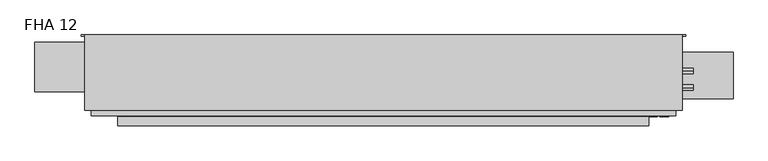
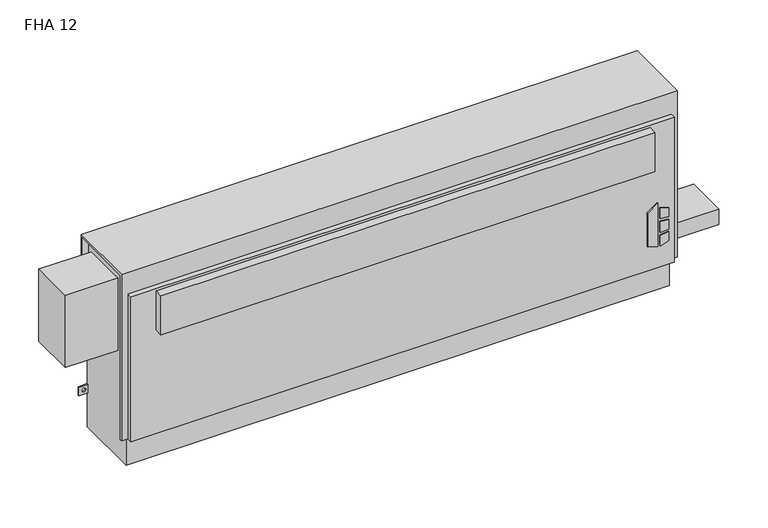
"""IFC4 building model written with IfcOpenShell, lengths in millimetres: proxy geometry, Vertical_Fan_Coil_Unit_-_FHA_-_IEC_-_2-Pipe_FS-FR_RH_2022 : FHA 12."""

from ifc_helpers import new_model, si_unit, point, frame, frame_2d, origin, place, context, project, spatial, polyline, circle_curve, trimmed, segment, composite_curve, outline, extrude, source, transform, mapped, element, save
from ifc_brep_helpers import plane_surface, revolved_surface, advanced_brep


def fha_12_aa732288(model_context):
    return source(origin(), model_context, "Body", "SolidModel", [
        extrude(outline(polyline([(172.5771459, 906.5368862), (162.6290756, 938.7102728), (304.8, 938.7102728), (281.7779939, 906.5368862), (172.5771459, 906.5368862)])), frame((0.0, 9.525, 0.0), z_axis=(0.0, 1.0, 0.0), x_axis=(0.0, 0.0, 1.0)), (0.0, 0.0, 1.0), 3.175),
        extrude(outline(polyline([(251.5764313, 945.4686058), (248.3740387, 971.55), (277.6028798, 971.55), (285.6672948, 945.4686058), (251.5764313, 945.4686058)])), frame((0.0, 9.525, 0.0), z_axis=(0.0, 1.0, 0.0), x_axis=(0.0, 0.0, 1.0)), (0.0, 0.0, 1.0), 3.175),
        extrude(outline(polyline([(199.7129044, 971.55), (196.0474034, 945.4686058), (162.6290756, 945.4686058), (171.2633128, 971.55), (199.7129044, 971.55)])), frame((0.0, 9.525, 0.0), z_axis=(0.0, 1.0, 0.0), x_axis=(0.0, 0.0, 1.0)), (0.0, 0.0, 1.0), 3.175),
        extrude(outline(polyline([(239.0280658, 971.55), (241.3098921, 945.4686058), (205.3723436, 945.4686058), (208.1136086, 971.55), (239.0280658, 971.55)])), frame((0.0, 9.525, 0.0), z_axis=(0.0, 1.0, 0.0), x_axis=(0.0, 0.0, 1.0)), (0.0, 0.0, 1.0), 3.175),
        extrude(outline(composite_curve([segment(trimmed(circle_curve(frame_2d((1054.1, 128.5875)), 9.525), [point((1044.575, 128.5875))], [point((1063.625, 128.5875))], False, "CARTESIAN"), True, "CONTINUOUS"), segment(trimmed(circle_curve(frame_2d((1054.1, 128.5875)), 9.525), [point((1063.625, 128.5875))], [point((1044.575, 128.5875))], False, "CARTESIAN"), True, "CONTINUOUS")], self_intersect=False)), frame((0.0, 0.0, 101.6), z_axis=(0.0, 0.0, 1.0), x_axis=(1.0, 0.0, 0.0)), (0.0, 0.0, 1.0), 25.4),
        extrude(outline(polyline([(1155.7, 195.2625), (1155.7, 61.9125), (990.6, 61.9125), (990.6, 195.2625), (1155.7, 195.2625)])), frame((0.0, 0.0, 127.0), z_axis=(0.0, 0.0, 1.0), x_axis=(1.0, 0.0, 0.0)), (0.0, 0.0, 1.0), 50.8),
        extrude(outline(polyline([(914.4, -15.875), (-609.6, -15.875), (-609.6, 9.525), (914.4, 9.525), (914.4, -15.875)])), frame((0.0, 0.0, 431.8), z_axis=(0.0, 0.0, 1.0), x_axis=(1.0, 0.0, 0.0)), (0.0, 0.0, 1.0), 127.0),
        extrude(outline(composite_curve([segment(trimmed(circle_curve(frame_2d((93.1926, 488.0102)), 7.9375), [point((93.1926, 480.0727))], [point((93.1926, 495.9477))], False, "CARTESIAN"), True, "CONTINUOUS"), segment(trimmed(circle_curve(frame_2d((93.1926, 488.0102)), 7.9375), [point((93.1926, 495.9477))], [point((93.1926, 480.0727))], False, "CARTESIAN"), True, "CONTINUOUS")], self_intersect=False)), frame((990.6, 0.0, 0.0), z_axis=(1.0, 0.0, 0.0), x_axis=(0.0, 1.0, 0.0)), (0.0, 0.0, 1.0), 50.8),
        extrude(outline(composite_curve([segment(trimmed(circle_curve(frame_2d((141.3002, 461.3402)), 7.9375), [point((141.3002, 453.4027))], [point((141.3002, 469.2777))], False, "CARTESIAN"), True, "CONTINUOUS"), segment(trimmed(circle_curve(frame_2d((141.3002, 461.3402)), 7.9375), [point((141.3002, 469.2777))], [point((141.3002, 453.4027))], False, "CARTESIAN"), True, "CONTINUOUS")], self_intersect=False)), frame((990.6, 0.0, 0.0), z_axis=(1.0, 0.0, 0.0), x_axis=(0.0, 1.0, 0.0)), (0.0, 0.0, 1.0), 50.8),
        extrude(outline(polyline([(-685.8, 223.266), (-685.8, 81.534), (-847.725, 81.534), (-847.725, 223.266), (-685.8, 223.266)])), frame((0.0, 0.0, 349.25), z_axis=(0.0, 0.0, 1.0), x_axis=(1.0, 0.0, 0.0)), (0.0, 0.0, 1.0), 234.95),
        advanced_brep(
        [(1009.65, 244.475, 635.0), (-704.85, 244.475, 635.0), (-704.85, 28.575, 635.0), (1009.65, 28.575, 635.0), (-685.8, 244.475, 0.0), (990.6, 244.475, 0.0), (990.6, 38.1, 0.0), (-685.8, 38.1, 0.0), (1009.65, 244.475, 558.8), (990.6, 244.475, 558.8), (990.6, 244.475, 414.3375), (1019.175, 244.475, 414.3375), (1019.175, 244.475, 385.7625), (990.6, 244.475, 385.7625), (990.6, 244.475, 287.3375), (1019.175, 244.475, 287.3375), (1019.175, 244.475, 258.7625), (990.6, 244.475, 258.7625), (990.6, 244.475, 141.2875), (1019.175, 244.475, 141.2875), (1019.175, 244.475, 112.7125), (990.6, 244.475, 112.7125), (-685.8, 244.475, 112.7125), (-714.375, 244.475, 112.7125), (-714.375, 244.475, 141.2875), (-685.8, 244.475, 141.2875), (-685.8, 244.475, 258.7625), (-714.375, 244.475, 258.7625), (-714.375, 244.475, 287.3375), (-685.8, 244.475, 287.3375), (-685.8, 244.475, 385.7625), (-714.375, 244.475, 385.7625), (-714.375, 244.475, 414.3375), (-685.8, 244.475, 414.3375), (-685.8, 244.475, 558.8), (-704.85, 244.475, 558.8), (1008.8626, 244.475, 127.0), (997.7374, 244.475, 127.0), (-692.9374, 244.475, 127.0), (-704.0626, 244.475, 127.0), (1008.8626, 244.475, 273.05), (997.7374, 244.475, 273.05), (-692.9374, 244.475, 273.05), (-704.0626, 244.475, 273.05), (1008.8626, 244.475, 400.05), (997.7374, 244.475, 400.05), (-692.9374, 244.475, 400.05), (-704.0626, 244.475, 400.05), (-704.85, 238.125, 558.8), (-704.85, 238.125, 628.65), (-704.85, 34.925, 628.65), (-704.85, 34.925, 92.075), (-704.85, 28.575, 92.075), (990.6, 12.7, 565.15), (-685.8, 12.7, 565.15), (-685.8, 12.7, 92.075), (990.6, 12.7, 92.075), (1009.65, 28.575, 92.075), (1009.65, 34.925, 92.075), (1009.65, 34.925, 628.65), (1009.65, 238.125, 628.65), (1009.65, 238.125, 558.8), (-685.8, 28.575, 92.075), (-685.8, 28.575, 565.15), (990.6, 28.575, 565.15), (990.6, 28.575, 92.075), (-685.8, 34.925, 92.075), (-685.8, 38.1, 92.075), (990.6, 38.1, 92.075), (990.6, 34.925, 92.075), (990.6, 241.3, 112.7125), (990.6, 241.3, 141.2875), (990.6, 241.3, 258.7625), (990.6, 241.3, 287.3375), (990.6, 241.3, 385.7625), (990.6, 241.3, 414.3375), (990.6, 238.125, 558.8), (990.6, 238.125, 628.65), (990.6, 34.925, 628.65), (-685.8, 34.925, 628.65), (-685.8, 238.125, 628.65), (-685.8, 238.125, 558.8), (-685.8, 241.3, 414.3375), (-685.8, 241.3, 385.7625), (-685.8, 241.3, 287.3375), (-685.8, 241.3, 258.7625), (-685.8, 241.3, 141.2875), (-685.8, 241.3, 112.7125), (1019.175, 241.3, 112.7125), (1019.175, 241.3, 141.2875), (997.7374, 241.3, 127.0), (1008.8626, 241.3, 127.0), (1019.175, 241.3, 258.7625), (1019.175, 241.3, 287.3375), (997.7374, 241.3, 273.05), (1008.8626, 241.3, 273.05), (1019.175, 241.3, 385.7625), (1019.175, 241.3, 414.3375), (997.7374, 241.3, 400.05), (1008.8626, 241.3, 400.05), (-714.375, 241.3, 141.2875), (-714.375, 241.3, 112.7125), (-704.0626, 241.3, 127.0), (-692.9374, 241.3, 127.0), (-714.375, 241.3, 287.3375), (-714.375, 241.3, 258.7625), (-704.0626, 241.3, 273.05), (-692.9374, 241.3, 273.05), (-714.375, 241.3, 414.3375), (-714.375, 241.3, 385.7625), (-704.0626, 241.3, 400.05), (-692.9374, 241.3, 400.05)],
        [
            (0, 1),
            (1, 2),
            (2, 3),
            (3, 0),
            (4, 5),
            (5, 6),
            (6, 7),
            (7, 4),
            (0, 8),
            (8, 9),
            (9, 10),
            (10, 11),
            (11, 12),
            (12, 13),
            (13, 14),
            (14, 15),
            (15, 16),
            (16, 17),
            (17, 18),
            (18, 19),
            (19, 20),
            (20, 21),
            (21, 5),
            (4, 22),
            (22, 23),
            (23, 24),
            (24, 25),
            (25, 26),
            (26, 27),
            (27, 28),
            (28, 29),
            (29, 30),
            (30, 31),
            (31, 32),
            (32, 33),
            (33, 34),
            (34, 35),
            (35, 1),
            (36, 37, circle_curve(frame((1003.3, 244.475, 127.0), z_axis=(0.0, -1.0, 0.0), x_axis=(-1.0, 0.0, 0.0)), 5.5626)),
            (37, 36, circle_curve(frame((1003.3, 244.475, 127.0), z_axis=(0.0, -1.0, 0.0), x_axis=(-1.0, 0.0, 0.0)), 5.5626)),
            (38, 39, circle_curve(frame((-698.5, 244.475, 127.0), z_axis=(0.0, -1.0, 0.0), x_axis=(-1.0, 0.0, 0.0)), 5.5626)),
            (39, 38, circle_curve(frame((-698.5, 244.475, 127.0), z_axis=(0.0, -1.0, 0.0), x_axis=(-1.0, 0.0, 0.0)), 5.5626)),
            (40, 41, circle_curve(frame((1003.3, 244.475, 273.05), z_axis=(0.0, -1.0, 0.0), x_axis=(-1.0, 0.0, 0.0)), 5.5626)),
            (41, 40, circle_curve(frame((1003.3, 244.475, 273.05), z_axis=(0.0, -1.0, 0.0), x_axis=(-1.0, 0.0, 0.0)), 5.5626)),
            (42, 43, circle_curve(frame((-698.5, 244.475, 273.05), z_axis=(0.0, -1.0, 0.0), x_axis=(-1.0, 0.0, 0.0)), 5.5626)),
            (43, 42, circle_curve(frame((-698.5, 244.475, 273.05), z_axis=(0.0, -1.0, 0.0), x_axis=(-1.0, 0.0, 0.0)), 5.5626)),
            (44, 45, circle_curve(frame((1003.3, 244.475, 400.05), z_axis=(0.0, -1.0, 0.0), x_axis=(-1.0, 0.0, 0.0)), 5.5626)),
            (45, 44, circle_curve(frame((1003.3, 244.475, 400.05), z_axis=(0.0, -1.0, 0.0), x_axis=(-1.0, 0.0, 0.0)), 5.5626)),
            (46, 47, circle_curve(frame((-698.5, 244.475, 400.05), z_axis=(0.0, -1.0, 0.0), x_axis=(-1.0, 0.0, 0.0)), 5.5626)),
            (47, 46, circle_curve(frame((-698.5, 244.475, 400.05), z_axis=(0.0, -1.0, 0.0), x_axis=(-1.0, 0.0, 0.0)), 5.5626)),
            (35, 48),
            (48, 49),
            (49, 50),
            (50, 51),
            (51, 52),
            (52, 2),
            (53, 54),
            (54, 55),
            (55, 56),
            (56, 53),
            (3, 57),
            (57, 58),
            (58, 59),
            (59, 60),
            (60, 61),
            (61, 8),
            (52, 62),
            (62, 63),
            (63, 64),
            (64, 65),
            (65, 57),
            (53, 64),
            (63, 54),
            (55, 62),
            (51, 66),
            (66, 67),
            (67, 68),
            (68, 69),
            (69, 58),
            (65, 56),
            (6, 68),
            (67, 7),
            (21, 70),
            (70, 71),
            (71, 18),
            (17, 72),
            (72, 73),
            (73, 14),
            (13, 74),
            (74, 75),
            (75, 10),
            (9, 76),
            (76, 77),
            (77, 78),
            (78, 69),
            (66, 79),
            (79, 80),
            (80, 81),
            (81, 34),
            (33, 82),
            (82, 83),
            (83, 30),
            (29, 84),
            (84, 85),
            (85, 26),
            (25, 86),
            (86, 87),
            (87, 22),
            (76, 61),
            (60, 77),
            (78, 59),
            (50, 79),
            (81, 48),
            (80, 49),
            (70, 88),
            (88, 89),
            (89, 71),
            (90, 91, circle_curve(frame((1003.3, 241.3, 127.0), z_axis=(0.0, 1.0, 0.0), x_axis=(-1.0, 0.0, 0.0)), 5.5626)),
            (91, 90, circle_curve(frame((1003.3, 241.3, 127.0), z_axis=(0.0, 1.0, 0.0), x_axis=(-1.0, 0.0, 0.0)), 5.5626)),
            (92, 93),
            (93, 73),
            (72, 92),
            (94, 95, circle_curve(frame((1003.3, 241.3, 273.05), z_axis=(0.0, 1.0, 0.0), x_axis=(-1.0, 0.0, 0.0)), 5.5626)),
            (95, 94, circle_curve(frame((1003.3, 241.3, 273.05), z_axis=(0.0, 1.0, 0.0), x_axis=(-1.0, 0.0, 0.0)), 5.5626)),
            (96, 97),
            (97, 75),
            (74, 96),
            (98, 99, circle_curve(frame((1003.3, 241.3, 400.05), z_axis=(0.0, 1.0, 0.0), x_axis=(-1.0, 0.0, 0.0)), 5.5626)),
            (99, 98, circle_curve(frame((1003.3, 241.3, 400.05), z_axis=(0.0, 1.0, 0.0), x_axis=(-1.0, 0.0, 0.0)), 5.5626)),
            (100, 101),
            (101, 87),
            (86, 100),
            (102, 103, circle_curve(frame((-698.5, 241.3, 127.0), z_axis=(0.0, 1.0, 0.0), x_axis=(-1.0, 0.0, 0.0)), 5.5626)),
            (103, 102, circle_curve(frame((-698.5, 241.3, 127.0), z_axis=(0.0, 1.0, 0.0), x_axis=(-1.0, 0.0, 0.0)), 5.5626)),
            (84, 104),
            (104, 105),
            (105, 85),
            (106, 107, circle_curve(frame((-698.5, 241.3, 273.05), z_axis=(0.0, 1.0, 0.0), x_axis=(-1.0, 0.0, 0.0)), 5.5626)),
            (107, 106, circle_curve(frame((-698.5, 241.3, 273.05), z_axis=(0.0, 1.0, 0.0), x_axis=(-1.0, 0.0, 0.0)), 5.5626)),
            (108, 109),
            (109, 83),
            (82, 108),
            (110, 111, circle_curve(frame((-698.5, 241.3, 400.05), z_axis=(0.0, 1.0, 0.0), x_axis=(-1.0, 0.0, 0.0)), 5.5626)),
            (111, 110, circle_curve(frame((-698.5, 241.3, 400.05), z_axis=(0.0, 1.0, 0.0), x_axis=(-1.0, 0.0, 0.0)), 5.5626)),
            (89, 19),
            (88, 20),
            (16, 92),
            (93, 15),
            (12, 96),
            (97, 11),
            (24, 100),
            (101, 23),
            (105, 27),
            (104, 28),
            (32, 108),
            (109, 31),
            (90, 37),
            (36, 91),
            (102, 39),
            (38, 103),
            (94, 41),
            (40, 95),
            (106, 43),
            (42, 107),
            (98, 45),
            (44, 99),
            (110, 47),
            (46, 111),
        ],
        [
            plane_surface(frame((-704.85, 244.475, 635.0), z_axis=(0.0, 0.0, 1.0), x_axis=(-1.0, 0.0, 0.0))),
            plane_surface(frame((-704.85, 244.475, 0.0), z_axis=(0.0, 0.0, -1.0), x_axis=(1.0, 0.0, 0.0))),
            plane_surface(frame((1009.65, 244.475, 635.0), z_axis=(0.0, 1.0, 0.0), x_axis=(0.0, 0.0, -1.0))),
            plane_surface(frame((-704.85, 244.475, 635.0), z_axis=(-1.0, 0.0, 0.0), x_axis=(0.0, 0.0, -1.0))),
            plane_surface(frame((-704.85, 12.7, 635.0), z_axis=(0.0, -1.0, 0.0), x_axis=(0.0, 0.0, -1.0))),
            plane_surface(frame((1009.65, 12.7, 635.0), z_axis=(1.0, 0.0, 0.0), x_axis=(0.0, 0.0, -1.0))),
            plane_surface(frame((-1263.65, 28.575, 635.0), z_axis=(0.0, -1.0, 0.0), x_axis=(1.0, 0.0, 0.0))),
            plane_surface(frame((-1263.65, 28.575, 565.15), z_axis=(0.0, 0.0, 1.0), x_axis=(1.0, 0.0, 0.0))),
            plane_surface(frame((-704.85, 12.7, 92.075), z_axis=(0.0, 0.0, -1.0), x_axis=(1.0, 0.0, 0.0))),
            plane_surface(frame((-704.85, 38.1, 92.075), z_axis=(0.0, -1.0, 0.0), x_axis=(1.0, 0.0, 0.0))),
            plane_surface(frame((990.6, 28.575, 92.075), z_axis=(1.0, 0.0, 0.0), x_axis=(0.0, -1.0, 0.0))),
            plane_surface(frame((-685.8, 28.575, 565.15), z_axis=(-1.0, 0.0, 0.0), x_axis=(0.0, -1.0, 0.0))),
            plane_surface(frame((990.6, 244.475, 0.0), z_axis=(1.0, 0.0, 0.0), x_axis=(0.0, -1.0, 0.0))),
            plane_surface(frame((-685.8, 244.475, 92.075), z_axis=(-1.0, 0.0, 0.0), x_axis=(0.0, -1.0, 0.0))),
            plane_surface(frame((990.6, 238.125, 628.65), z_axis=(0.0, -1.0, 0.0), x_axis=(1.0, 0.0, 0.0))),
            plane_surface(frame((990.6, 238.125, 558.8), z_axis=(0.0, 0.0, -1.0), x_axis=(1.0, 0.0, 0.0))),
            plane_surface(frame((990.6, 34.925, 92.075), z_axis=(0.0, 1.0, 0.0), x_axis=(1.0, 0.0, 0.0))),
            plane_surface(frame((990.6, 34.925, 628.65), z_axis=(0.0, 0.0, -1.0), x_axis=(1.0, 0.0, 0.0))),
            plane_surface(frame((-685.8, 34.925, 628.65), z_axis=(0.0, 1.0, 0.0), x_axis=(-1.0, 0.0, 0.0))),
            plane_surface(frame((-685.8, 244.475, 558.8), z_axis=(0.0, 0.0, -1.0), x_axis=(-1.0, 0.0, 0.0))),
            plane_surface(frame((-685.8, 238.125, 558.8), z_axis=(0.0, -1.0, 0.0), x_axis=(-1.0, 0.0, 0.0))),
            plane_surface(frame((-685.8, 238.125, 628.65), z_axis=(0.0, 0.0, -1.0), x_axis=(-1.0, 0.0, 0.0))),
            plane_surface(frame((1019.175, 241.3, 141.2875), z_axis=(0.0, -1.0, 0.0), x_axis=(-1.0, 0.0, 0.0))),
            plane_surface(frame((990.6, 244.475, 141.2875), z_axis=(0.0, 0.0, 1.0), x_axis=(0.0, -1.0, 0.0))),
            plane_surface(frame((1019.175, 244.475, 141.2875), z_axis=(1.0, 0.0, 0.0), x_axis=(0.0, -1.0, 0.0))),
            plane_surface(frame((1019.175, 244.475, 112.7125), z_axis=(0.0, 0.0, -1.0), x_axis=(0.0, -1.0, 0.0))),
            plane_surface(frame((1019.175, 244.475, 258.7625), z_axis=(0.0, 0.0, -1.0), x_axis=(0.0, -1.0, 0.0))),
            plane_surface(frame((990.6, 244.475, 287.3375), z_axis=(0.0, 0.0, 1.0), x_axis=(0.0, -1.0, 0.0))),
            plane_surface(frame((1019.175, 244.475, 287.3375), z_axis=(1.0, 0.0, 0.0), x_axis=(0.0, -1.0, 0.0))),
            plane_surface(frame((1019.175, 244.475, 385.7625), z_axis=(0.0, 0.0, -1.0), x_axis=(0.0, -1.0, 0.0))),
            plane_surface(frame((990.6, 244.475, 414.3375), z_axis=(0.0, 0.0, 1.0), x_axis=(0.0, -1.0, 0.0))),
            plane_surface(frame((1019.175, 244.475, 414.3375), z_axis=(1.0, 0.0, 0.0), x_axis=(0.0, -1.0, 0.0))),
            plane_surface(frame((-714.375, 244.475, 141.2875), z_axis=(0.0, 0.0, 1.0), x_axis=(0.0, -1.0, 0.0))),
            plane_surface(frame((-685.8, 244.475, 112.7125), z_axis=(0.0, 0.0, -1.0), x_axis=(0.0, -1.0, 0.0))),
            plane_surface(frame((-714.375, 244.475, 112.7125), z_axis=(-1.0, 0.0, 0.0), x_axis=(0.0, -1.0, 0.0))),
            plane_surface(frame((-685.8, 244.475, 258.7625), z_axis=(0.0, 0.0, -1.0), x_axis=(0.0, -1.0, 0.0))),
            plane_surface(frame((-714.375, 244.475, 258.7625), z_axis=(-1.0, 0.0, 0.0), x_axis=(0.0, -1.0, 0.0))),
            plane_surface(frame((-714.375, 244.475, 287.3375), z_axis=(0.0, 0.0, 1.0), x_axis=(0.0, -1.0, 0.0))),
            plane_surface(frame((-714.375, 244.475, 414.3375), z_axis=(0.0, 0.0, 1.0), x_axis=(0.0, -1.0, 0.0))),
            plane_surface(frame((-685.8, 244.475, 385.7625), z_axis=(0.0, 0.0, -1.0), x_axis=(0.0, -1.0, 0.0))),
            plane_surface(frame((-714.375, 244.475, 385.7625), z_axis=(-1.0, 0.0, 0.0), x_axis=(0.0, -1.0, 0.0))),
            revolved_surface(polyline([(997.7374, 241.3, 127.0), (997.7374, 244.475, 127.0)]), (1003.3, 244.475, 127.0), (0.0, -1.0, 0.0)),
            revolved_surface(polyline([(-704.0626, 241.3, 127.0), (-704.0626, 244.475, 127.0)]), (-698.5, 244.475, 127.0), (0.0, -1.0, 0.0)),
            revolved_surface(polyline([(997.7374, 241.3, 273.05), (997.7374, 244.475, 273.05)]), (1003.3, 244.475, 273.05), (0.0, -1.0, 0.0)),
            revolved_surface(polyline([(-704.0626, 241.3, 273.05), (-704.0626, 244.475, 273.05)]), (-698.5, 244.475, 273.05), (0.0, -1.0, 0.0)),
            revolved_surface(polyline([(997.7374, 241.3, 400.05), (997.7374, 244.475, 400.05)]), (1003.3, 244.475, 400.05), (0.0, -1.0, 0.0)),
            revolved_surface(polyline([(-704.0626, 241.3, 400.05), (-704.0626, 244.475, 400.05)]), (-698.5, 244.475, 400.05), (0.0, -1.0, 0.0)),
        ],
        [
            (0, [[1, 2, 3, 4]]),
            (1, [[5, 6, 7, 8]]),
            (2, [[-1, 9, 10, 11, 12, 13, 14, 15, 16, 17, 18, 19, 20, 21, 22, 23, -5, 24, 25, 26, 27, 28, 29, 30, 31, 32, 33, 34, 35, 36, 37, 38], [39, 40], [41, 42], [43, 44], [45, 46], [47, 48], [49, 50]]),
            (3, [[-2, -38, 51, 52, 53, 54, 55, 56]]),
            (4, [[57, 58, 59, 60]]),
            (5, [[-4, 61, 62, 63, 64, 65, 66, -9]]),
            (6, [[-3, -56, 67, 68, 69, 70, 71, -61]]),
            (7, [[-57, 72, -69, 73]]),
            (8, [[-59, 74, -67, -55, 75, 76, 77, 78, 79, -62, -71, 80]]),
            (9, [[-7, 81, -77, 82]]),
            (10, [[-70, -72, -60, -80]]),
            (11, [[-68, -74, -58, -73]]),
            (12, [[-6, -23, 83, 84, 85, -19, 86, 87, 88, -15, 89, 90, 91, -11, 92, 93, 94, 95, -78, -81]]),
            (13, [[-8, -82, -76, 96, 97, 98, 99, -36, 100, 101, 102, -32, 103, 104, 105, -28, 106, 107, 108, -24]]),
            (14, [[-93, 109, -65, 110]]),
            (15, [[-92, -10, -66, -109]]),
            (16, [[-95, 111, -63, -79]]),
            (17, [[-94, -110, -64, -111]]),
            (18, [[-96, -75, -54, 112]]),
            (19, [[-99, 113, -51, -37]]),
            (20, [[-98, 114, -52, -113]]),
            (21, [[-97, -112, -53, -114]]),
            (22, [[115, 116, 117, -84], [118, 119]]),
            (22, [[120, 121, -87, 122], [123, 124]]),
            (22, [[125, 126, -90, 127], [128, 129]]),
            (22, [[130, 131, -107, 132], [133, 134]]),
            (22, [[135, 136, 137, -104], [138, 139]]),
            (22, [[140, 141, -101, 142], [143, 144]]),
            (23, [[-117, 145, -20, -85]]),
            (24, [[-116, 146, -21, -145]]),
            (25, [[-115, -83, -22, -146]]),
            (26, [[-122, -86, -18, 147]]),
            (27, [[-121, 148, -16, -88]]),
            (28, [[-120, -147, -17, -148]]),
            (29, [[-127, -89, -14, 149]]),
            (30, [[-126, 150, -12, -91]]),
            (31, [[-125, -149, -13, -150]]),
            (32, [[-132, -106, -27, 151]]),
            (33, [[-131, 152, -25, -108]]),
            (34, [[-130, -151, -26, -152]]),
            (35, [[-137, 153, -29, -105]]),
            (36, [[-136, 154, -30, -153]]),
            (37, [[-135, -103, -31, -154]]),
            (38, [[-142, -100, -35, 155]]),
            (39, [[-141, 156, -33, -102]]),
            (40, [[-140, -155, -34, -156]]),
            (41, [[157, -39, 158, -118]]),
            (41, [[-157, -119, -158, -40]]),
            (42, [[159, -41, 160, -133]]),
            (42, [[-159, -134, -160, -42]]),
            (43, [[161, -43, 162, -123]]),
            (43, [[-161, -124, -162, -44]]),
            (44, [[163, -45, 164, -138]]),
            (44, [[-163, -139, -164, -46]]),
            (45, [[165, -47, 166, -128]]),
            (45, [[-165, -129, -166, -48]]),
            (46, [[167, -49, 168, -143]]),
            (46, [[-167, -144, -168, -50]]),
        ],
    ),
    ])


if __name__ == "__main__":
    model = new_model("IFC4")
    model_context = context("Model", 3, world=origin())
    ifc_project = project(units=[si_unit("LENGTHUNIT", "METRE", prefix="MILLI")], contexts=[model_context])
    site = spatial("IfcSite", under=ifc_project)
    building = spatial("IfcBuilding", under=site)
    placement = place(None, origin())
    fha_12_shape = fha_12_aa732288(model_context)
    element("IfcBuildingElementProxy", 1, Name="Vertical_Fan_Coil_Unit_-_FHA_-_IEC_-_2-Pipe_FS-FR_RH_2022 : FHA 12", ObjectType="Vertical_Fan_Coil_Unit_-_FHA_-_IEC_-_2-Pipe_FS-FR_RH_2022 : FHA 12", at=placement, inside=building, context=model_context, shape_type="MappedRepresentation", body=[
        mapped(fha_12_shape, transform((0.0, 0.0, 0.0), x_axis=(1.0, 0.0, 0.0), y_axis=(0.0, 1.0, 0.0), z_axis=(0.0, 0.0, 1.0))),
    ])
    save(model, "model.ifc")
